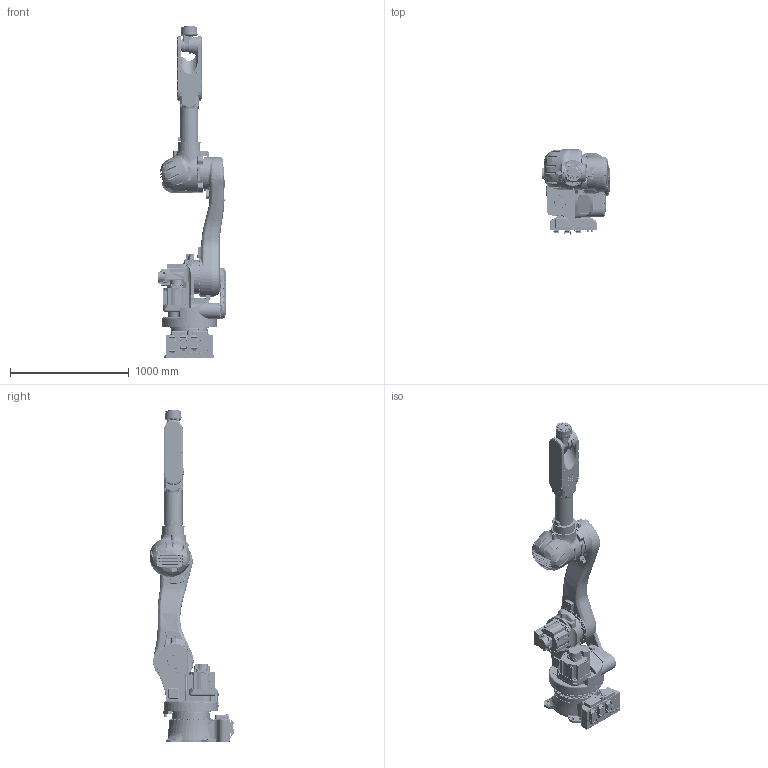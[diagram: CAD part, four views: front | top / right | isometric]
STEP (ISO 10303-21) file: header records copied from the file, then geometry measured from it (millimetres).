
FILE_DESCRIPTION(('CATIA V5 STEP Exchange','CAx-IF Rec.Pracs.--- Composite Materials ---3.4---2017-06-13'),'2;1');
FILE_NAME('\\10.240.18.134\業務_共有\PS\動作確認\2021\#55554_STEP_RS\RS080N-B001.stp','2021-12-15T05:27:51+00:00',('none'),('none'),'CATIA Version 5-6 Release 2020 SP4 HF11','CATIA V5 STEP AP203 v2','none');
FILE_SCHEMA(('CONFIG_CONTROL_DESIGN'));
Products named in the file (1): RS080N-B001
Assembly tree (7 placements, depth 2):
  RS080N-B001
    #57
    #35067
    #97746
    #135766
    #178598
    #242896
    #258042
Bounding box: 571 x 713.75 x 2795 mm (x, y, z)
Volume: 194382819.7 mm3; surface area: 5613909.8 mm2
Topology: 10 solids, 10 shells, 6005 faces, 14906 edges, 9222 vertices
Faces by surface type: cylinder 2224, plane 1864, bspline 1027, torus 395, cone 343, sphere 83, extrusion 36, revolution 33
Entity records: 260095 total; most frequent: CARTESIAN_POINT 138806, ORIENTED_EDGE 29264, DIRECTION 16470, EDGE_CURVE 14632, VERTEX_POINT 9222, AXIS2_PLACEMENT_3D 7899, EDGE_LOOP 6636, ADVANCED_FACE 6005
